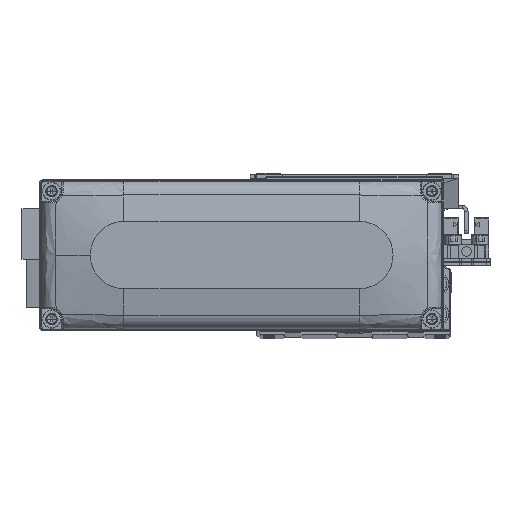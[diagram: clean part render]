
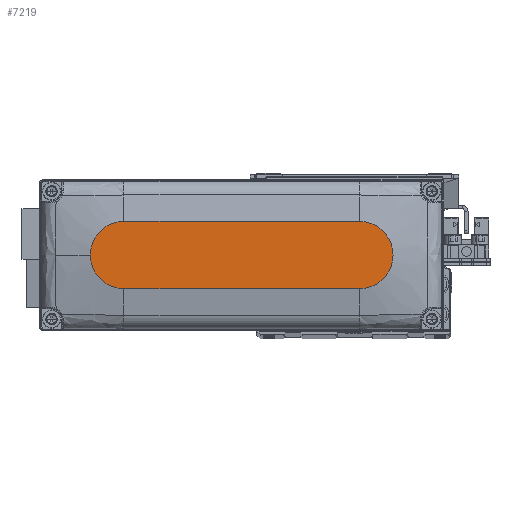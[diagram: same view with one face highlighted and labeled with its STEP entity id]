
A CAD part, top view. The second image highlights one B-rep face of the part: STEP entity #7219.
In plain terms, the highlighted planar face has unit normal (0, 0, 1).
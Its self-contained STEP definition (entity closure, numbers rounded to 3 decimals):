
#296 = VERTEX_POINT ( 'NONE', #959 ) ;
#743 = FACE_OUTER_BOUND ( 'NONE', #37522, .T. ) ;
#779 = DIRECTION ( 'NONE',  ( 0., 0., 1. ) ) ;
#959 = CARTESIAN_POINT ( 'NONE',  ( 35., 10., 28. ) ) ;
#1130 = VECTOR ( 'NONE', #14975, 1000. ) ;
#1388 = CARTESIAN_POINT ( 'NONE',  ( -35., 10., 28. ) ) ;
#1664 = EDGE_CURVE ( 'NONE', #16168, #296, #12797, .T. ) ;
#2382 = CARTESIAN_POINT ( 'NONE',  ( 35., -10., 28. ) ) ;
#2941 = AXIS2_PLACEMENT_3D ( 'NONE', #27956, #41556, #10986 ) ;
#3497 = AXIS2_PLACEMENT_3D ( 'NONE', #31308, #779, #14373 ) ;
#3517 = CIRCLE ( 'NONE', #9210, 10. ) ;
#3691 = EDGE_CURVE ( 'NONE', #15891, #16168, #22717, .T. ) ;
#3778 = CARTESIAN_POINT ( 'NONE',  ( -35., 0., 28. ) ) ;
#4732 = CARTESIAN_POINT ( 'NONE',  ( -35., -10., 28. ) ) ;
#5321 = CARTESIAN_POINT ( 'NONE',  ( 35., 0., 28. ) ) ;
#7219 = ADVANCED_FACE ( 'NONE', ( #743 ), #14336, .T. ) ;
#7348 = EDGE_CURVE ( 'NONE', #29863, #15891, #35278, .T. ) ;
#9161 = CARTESIAN_POINT ( 'NONE',  ( 45., 0., 28. ) ) ;
#9210 = AXIS2_PLACEMENT_3D ( 'NONE', #3778, #17363, #30975 ) ;
#10862 = ORIENTED_EDGE ( 'NONE', *, *, #7348, .T. ) ;
#10986 = DIRECTION ( 'NONE',  ( 1., 0., 0. ) ) ;
#12187 = VECTOR ( 'NONE', #18313, 1000. ) ;
#12797 = CIRCLE ( 'NONE', #43449, 10. ) ;
#14076 = VERTEX_POINT ( 'NONE', #32918 ) ;
#14336 = PLANE ( 'NONE',  #2941 ) ;
#14373 = DIRECTION ( 'NONE',  ( 1., 0., 0. ) ) ;
#14975 = DIRECTION ( 'NONE',  ( -1., 0., 0. ) ) ;
#15891 = VERTEX_POINT ( 'NONE', #2382 ) ;
#16168 = VERTEX_POINT ( 'NONE', #9161 ) ;
#17363 = DIRECTION ( 'NONE',  ( 0., 0., 1. ) ) ;
#18313 = DIRECTION ( 'NONE',  ( 1., 0., 0. ) ) ;
#18905 = DIRECTION ( 'NONE',  ( 0., 0., 1. ) ) ;
#22414 = EDGE_CURVE ( 'NONE', #296, #14076, #31925, .T. ) ;
#22717 = CIRCLE ( 'NONE', #3497, 10. ) ;
#25873 = EDGE_CURVE ( 'NONE', #14076, #29863, #3517, .T. ) ;
#26649 = ORIENTED_EDGE ( 'NONE', *, *, #3691, .T. ) ;
#27956 = CARTESIAN_POINT ( 'NONE',  ( 0., 0., 28. ) ) ;
#29863 = VERTEX_POINT ( 'NONE', #43229 ) ;
#30975 = DIRECTION ( 'NONE',  ( 1., 0., 0. ) ) ;
#31308 = CARTESIAN_POINT ( 'NONE',  ( 35., 0., 28. ) ) ;
#31925 = LINE ( 'NONE', #1388, #1130 ) ;
#32496 = DIRECTION ( 'NONE',  ( 1., 0., 0. ) ) ;
#32918 = CARTESIAN_POINT ( 'NONE',  ( -35., 10., 28. ) ) ;
#35278 = LINE ( 'NONE', #4732, #12187 ) ;
#35351 = ORIENTED_EDGE ( 'NONE', *, *, #25873, .T. ) ;
#37522 = EDGE_LOOP ( 'NONE', ( #38666, #35351, #10862, #26649, #39376 ) ) ;
#38666 = ORIENTED_EDGE ( 'NONE', *, *, #22414, .T. ) ;
#39376 = ORIENTED_EDGE ( 'NONE', *, *, #1664, .T. ) ;
#41556 = DIRECTION ( 'NONE',  ( 0., 0., 1. ) ) ;
#43229 = CARTESIAN_POINT ( 'NONE',  ( -35., -10., 28. ) ) ;
#43449 = AXIS2_PLACEMENT_3D ( 'NONE', #5321, #18905, #32496 ) ;
